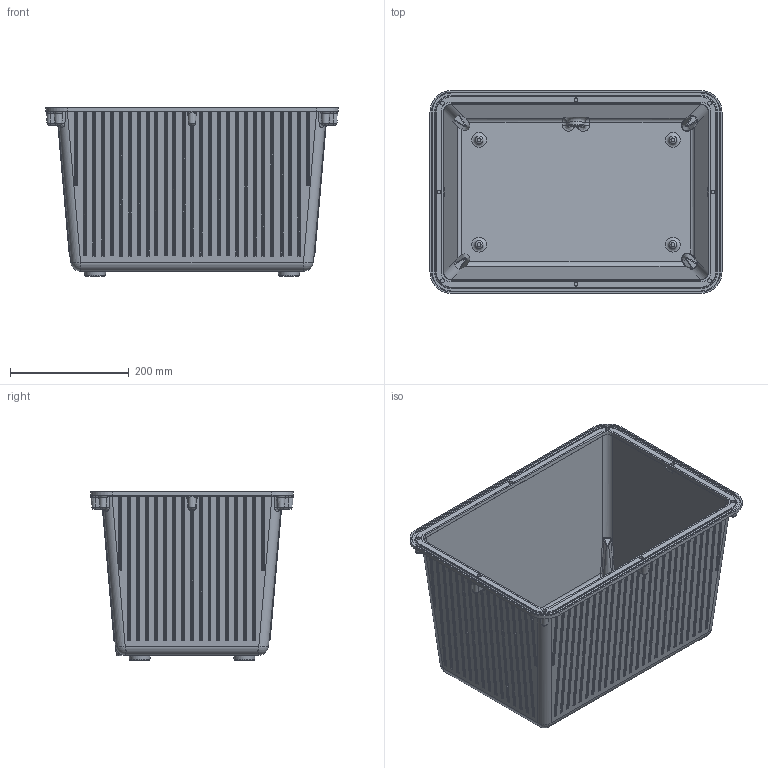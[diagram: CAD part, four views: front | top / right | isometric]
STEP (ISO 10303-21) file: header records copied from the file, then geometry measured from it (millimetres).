
FILE_DESCRIPTION( ( 'STEP AP214' ), '1' );
FILE_NAME( 'C:/Dokumente und Einstellungen/A.Otte/Desktop/Alu - Behälter AB 30 .stp', '2007-09-18T10:40:25', ( ' ' ), ( ' ' ), 'XStep 1.0', ' ', ' ' );
FILE_SCHEMA( ( 'CONFIG_CONTROL_DESIGN) ( )' ) );
Length unit declared in the file: metre
Products named in the file (2): Assem1; 2008  AB 30
Bounding box: 491 x 341 x 283.7 mm (x, y, z)
Volume: 3874883.2 mm3; surface area: 2163629.5 mm2
Topology: 2 solids, 2 shells, 2414 faces, 5824 edges, 3552 vertices
Faces by surface type: cylinder 1330, plane 570, bspline 302, torus 120, cone 80, sphere 12
Full cylindrical faces by diameter (mm): 6.647 x16, 8.376 x8, 18.631 x2, 28 x2
Entity records: 60375 total; most frequent: CARTESIAN_POINT 23282, DIRECTION 5840, ORIENTED_EDGE 5628, EDGE_CURVE 2814, AXIS2_PLACEMENT_3D 2263, VERTEX_POINT 1756, EDGE_LOOP 1356, LINE 1314
